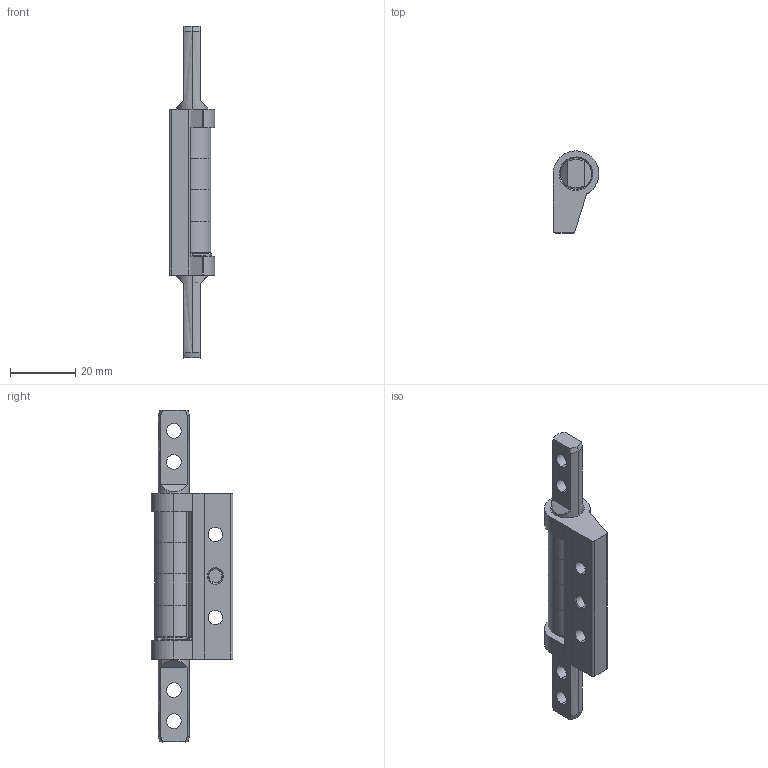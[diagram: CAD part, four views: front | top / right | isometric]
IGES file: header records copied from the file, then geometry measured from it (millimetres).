
Start section: Data from XPlus IGES,  Spatial Corp. Copyright (c) 1999-2004 .
Global section: file name: ZE 375 CF 151 REV D HINGE.igs; native system:  By Spatial Corp.; preprocessor: XPlus GENERIC/IGES 3.0; author: Noname; organization: Noname; date: 20140930.092512; units: inch
Bounding box: 13.95 x 25.08 x 101.6 mm (x, y, z)
Surface area: 9937.1 mm2 (no closed solid volume)
Topology: 0 solids, 0 shells, 231 faces, 1310 edges, 1310 vertices
Faces by surface type: revolution 134, extrusion 97
